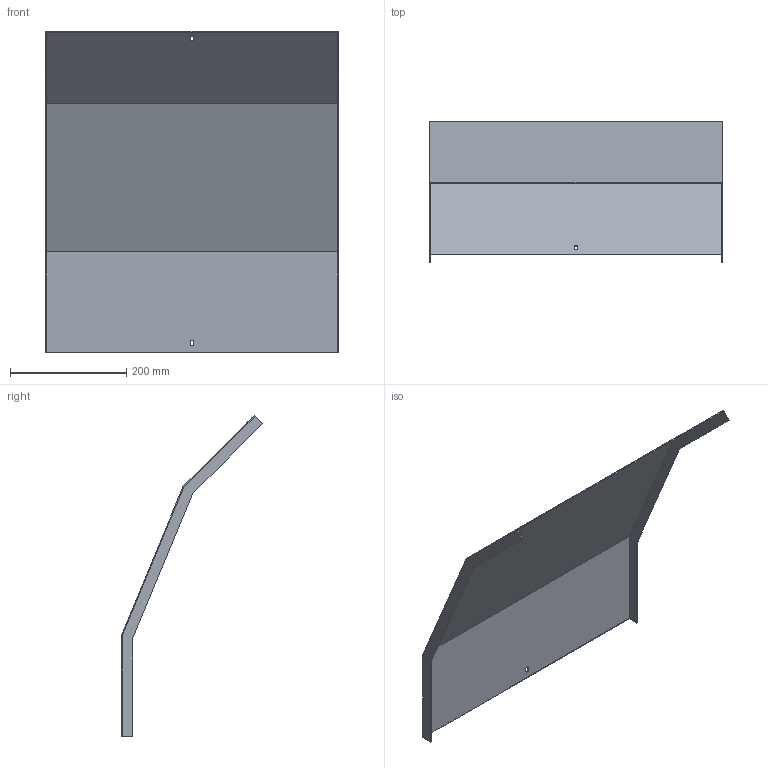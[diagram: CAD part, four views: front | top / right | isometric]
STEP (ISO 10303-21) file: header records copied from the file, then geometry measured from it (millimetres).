
FILE_DESCRIPTION (( 'STEP AP214' ), '1' );
FILE_NAME ('A2_34N3D500.step', '2025-02-21T10:34:55', ( '' ), ( '' ), 'SwSTEP 2.0', 'SolidWorks 2023', '' );
FILE_SCHEMA (( 'AUTOMOTIVE_DESIGN' ));
Length unit declared in the file: millimetre
Products named in the file (1): A2_34N3D500
Bounding box: 503 x 243.15 x 552.87 mm (x, y, z)
Volume: 505079.1 mm3; surface area: 676980.6 mm2
Topology: 1 solids, 1 shells, 26 faces, 72 edges, 48 vertices
Faces by surface type: plane 26
Entity records: 847 total; most frequent: CARTESIAN_POINT 147, ORIENTED_EDGE 144, DIRECTION 126, EDGE_CURVE 72, LINE 72, VECTOR 72, VERTEX_POINT 48, EDGE_LOOP 30
